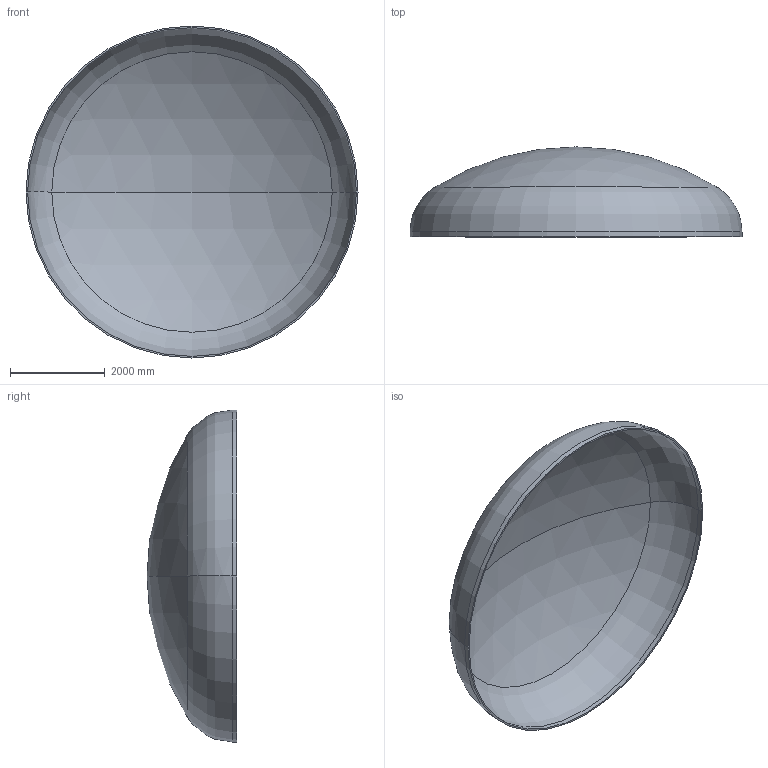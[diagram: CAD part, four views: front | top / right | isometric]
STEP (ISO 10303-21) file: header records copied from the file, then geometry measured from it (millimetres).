
FILE_DESCRIPTION (( 'STEP AP203' ), '1' );
FILE_NAME ('DIN 28013 Korbbogenform_-_Boden DIN 28013 - 7000 x 100 - I - s=33.step', '2016-07-04T10:46:42', ( '' ), ( '' ), 'SwSTEP 2.0', 'SolidWorks 2013', '' );
FILE_SCHEMA (( 'CONFIG_CONTROL_DESIGN' ));
Length unit declared in the file: millimetre
Products named in the file (1): DIN 28013 Korbbogenform_-_Boden DIN 28013 - 7000 x 100 - I - s=33
Bounding box: 7000 x 1894.69 x 7000 mm (x, y, z)
Volume: 1820917535.3 mm3; surface area: 111083162.2 mm2
Topology: 1 solids, 1 shells, 13 faces, 24 edges, 14 vertices
Faces by surface type: torus 4, cylinder 4, sphere 4, plane 1
Entity records: 407 total; most frequent: DIRECTION 72, CARTESIAN_POINT 52, ORIENTED_EDGE 48, AXIS2_PLACEMENT_3D 34, EDGE_CURVE 24, CIRCLE 20, VERTEX_POINT 14, EDGE_LOOP 14
